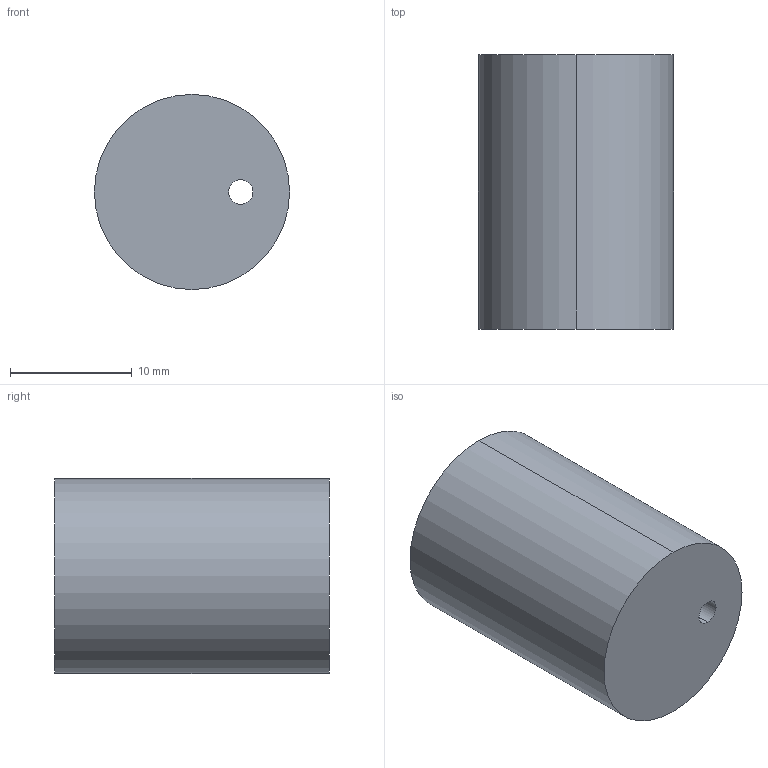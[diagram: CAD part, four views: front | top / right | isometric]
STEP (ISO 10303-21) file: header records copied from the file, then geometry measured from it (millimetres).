
FILE_DESCRIPTION (( 'STEP AP214' ), '1' );
FILE_NAME ('BR1716-16.STEP', '2020-01-29T17:55:09', ( 'August' ), ( '' ), 'SwSTEP 2.0', 'SolidWorks 2018', '' );
FILE_SCHEMA (( 'AUTOMOTIVE_DESIGN' ));
Length unit declared in the file: millimetre
Products named in the file (1): BR1716-16
Bounding box: 16 x 22.5 x 16 mm (x, y, z)
Volume: 4453.2 mm3; surface area: 1668.2 mm2
Topology: 1 solids, 1 shells, 6 faces, 12 edges, 8 vertices
Faces by surface type: cylinder 4, plane 2
Entity records: 202 total; most frequent: DIRECTION 34, CARTESIAN_POINT 27, ORIENTED_EDGE 24, AXIS2_PLACEMENT_3D 15, EDGE_CURVE 12, EDGE_LOOP 8, CIRCLE 8, VERTEX_POINT 8
